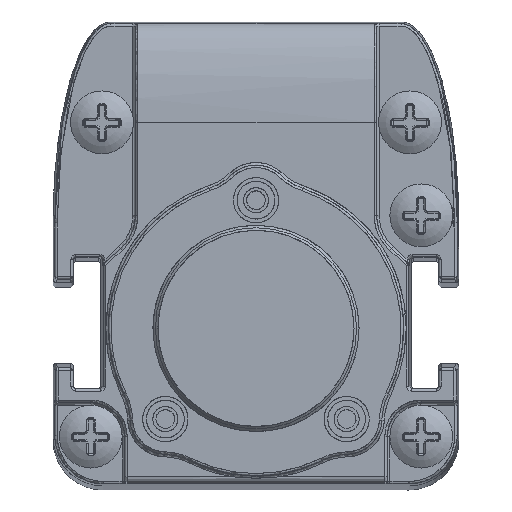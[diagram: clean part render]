
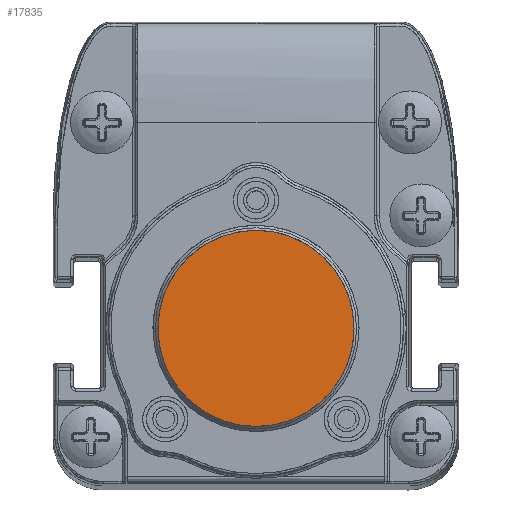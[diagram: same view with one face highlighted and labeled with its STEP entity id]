
A CAD part, top view. The second image highlights one B-rep face of the part: STEP entity #17835.
In plain terms, the highlighted planar face has unit normal (0, 0, 1).
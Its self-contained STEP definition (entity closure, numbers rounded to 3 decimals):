
#15106=B_SPLINE_CURVE_WITH_KNOTS('',3,(#62611,#62612,#62613,#62614,#62615,
#62616,#62617,#62618,#62619,#62620,#62621,#62622,#62623,#62624,#62625,#62626,
#62627,#62628,#62629,#62630,#62631,#62632,#62633,#62634,#62635,#62636,#62637,
#62638,#62639,#62640,#62641,#62642,#62643,#62644,#62645,#62646,#62647,#62648,
#62649,#62650,#62651,#62652,#62653,#62654,#62655,#62656,#62657,#62658,#62659,
#62660,#62661,#62662,#62663,#62664,#62665,#62666,#62667,#62668,#62669,#62670,
#62671,#62672,#62673,#62674,#62675,#62676,#62677,#62678,#62679,#62680,#62681,
#62682,#62683,#62684,#62685,#62686,#62687,#62688,#62689,#62690,#62691,#62692,
#62693,#62694,#62695,#62696,#62697,#62698,#62699,#62700,#62701,#62702,#62703,
#62704,#62705,#62706,#62707,#62708,#62709,#62710,#62711,#62712,#62713),
 .UNSPECIFIED.,.T.,.F.,(1,3,3,3,3,3,3,3,3,3,3,3,3,3,3,3,3,3,3,3,3,3,3,3,
3,3,3,3,3,3,3,3,3,3,3,3,1),(-0.029,0.,0.029,0.059,
0.088,0.118,0.147,0.176,
0.206,0.235,0.265,0.294,
0.324,0.353,0.382,0.412,
0.441,0.471,0.5,0.529,0.559,
0.588,0.618,0.647,0.676,
0.706,0.735,0.765,0.794,
0.824,0.853,0.882,0.912,
0.941,0.971,1.,1.029),.UNSPECIFIED.);
#17835=ADVANCED_FACE('',(#19815),#18733,.T.);
#18733=PLANE('',#42914);
#19815=FACE_OUTER_BOUND('',#21276,.T.);
#21276=EDGE_LOOP('',(#27485));
#27485=ORIENTED_EDGE('',*,*,#36349,.T.);
#31479=VERTEX_POINT('',#62714);
#36349=EDGE_CURVE('',#31479,#31479,#15106,.T.);
#42914=AXIS2_PLACEMENT_3D('',#62715,#46821,#46822);
#46821=DIRECTION('',(0.,0.,1.));
#46822=DIRECTION('',(1.,0.,0.));
#62611=CARTESIAN_POINT('',(7.8,0.,233.34));
#62612=CARTESIAN_POINT('',(7.8,0.465,233.34));
#62613=CARTESIAN_POINT('',(7.759,0.925,233.34));
#62614=CARTESIAN_POINT('',(7.679,1.376,233.34));
#62615=CARTESIAN_POINT('',(7.638,1.601,233.34));
#62616=CARTESIAN_POINT('',(7.588,1.825,233.34));
#62617=CARTESIAN_POINT('',(7.527,2.047,233.34));
#62618=CARTESIAN_POINT('',(7.466,2.269,233.34));
#62619=CARTESIAN_POINT('',(7.407,2.458,233.34));
#62620=CARTESIAN_POINT('',(7.315,2.708,233.34));
#62621=CARTESIAN_POINT('',(7.129,3.209,233.34));
#62622=CARTESIAN_POINT('',(6.898,3.683,233.34));
#62623=CARTESIAN_POINT('',(6.62,4.128,233.34));
#62624=CARTESIAN_POINT('',(6.343,4.573,233.34));
#62625=CARTESIAN_POINT('',(6.043,4.965,233.34));
#62626=CARTESIAN_POINT('',(5.651,5.376,233.34));
#62627=CARTESIAN_POINT('',(4.868,6.2,233.34));
#62628=CARTESIAN_POINT('',(3.912,6.837,233.34));
#62629=CARTESIAN_POINT('',(2.89,7.245,233.34));
#62630=CARTESIAN_POINT('',(2.378,7.449,233.34));
#62631=CARTESIAN_POINT('',(1.856,7.597,233.34));
#62632=CARTESIAN_POINT('',(1.324,7.689,233.34));
#62633=CARTESIAN_POINT('',(1.058,7.734,233.34));
#62634=CARTESIAN_POINT('',(0.79,7.766,233.34));
#62635=CARTESIAN_POINT('',(0.52,7.784,233.34));
#62636=CARTESIAN_POINT('',(0.249,7.801,233.34));
#62637=CARTESIAN_POINT('',(-0.055,7.804,233.34));
#62638=CARTESIAN_POINT('',(-0.3,7.794,233.34));
#62639=CARTESIAN_POINT('',(-0.79,7.775,233.34));
#62640=CARTESIAN_POINT('',(-1.271,7.712,233.34));
#62641=CARTESIAN_POINT('',(-1.742,7.604,233.34));
#62642=CARTESIAN_POINT('',(-2.213,7.496,233.34));
#62643=CARTESIAN_POINT('',(-2.713,7.327,233.34));
#62644=CARTESIAN_POINT('',(-3.123,7.147,233.34));
#62645=CARTESIAN_POINT('',(-3.534,6.968,233.34));
#62646=CARTESIAN_POINT('',(-3.924,6.757,233.34));
#62647=CARTESIAN_POINT('',(-4.293,6.513,233.34));
#62648=CARTESIAN_POINT('',(-4.477,6.392,233.34));
#62649=CARTESIAN_POINT('',(-4.656,6.262,233.34));
#62650=CARTESIAN_POINT('',(-4.83,6.125,233.34));
#62651=CARTESIAN_POINT('',(-5.004,5.987,233.34));
#62652=CARTESIAN_POINT('',(-5.15,5.864,233.34));
#62653=CARTESIAN_POINT('',(-5.337,5.688,233.34));
#62654=CARTESIAN_POINT('',(-5.712,5.337,233.34));
#62655=CARTESIAN_POINT('',(-6.047,4.956,233.34));
#62656=CARTESIAN_POINT('',(-6.341,4.545,233.34));
#62657=CARTESIAN_POINT('',(-6.635,4.134,233.34));
#62658=CARTESIAN_POINT('',(-6.869,3.738,233.34));
#62659=CARTESIAN_POINT('',(-7.102,3.226,233.34));
#62660=CARTESIAN_POINT('',(-7.567,2.203,233.34));
#62661=CARTESIAN_POINT('',(-7.8,1.124,233.34));
#62662=CARTESIAN_POINT('',(-7.8,0.,233.34));
#62663=CARTESIAN_POINT('',(-7.8,-0.562,233.34));
#62664=CARTESIAN_POINT('',(-7.742,-1.113,233.34));
#62665=CARTESIAN_POINT('',(-7.625,-1.651,233.34));
#62666=CARTESIAN_POINT('',(-7.509,-2.189,233.34));
#62667=CARTESIAN_POINT('',(-7.314,-2.758,233.34));
#62668=CARTESIAN_POINT('',(-7.102,-3.226,233.34));
#62669=CARTESIAN_POINT('',(-6.889,-3.694,233.34));
#62670=CARTESIAN_POINT('',(-6.636,-4.134,233.34));
#62671=CARTESIAN_POINT('',(-6.341,-4.544,233.34));
#62672=CARTESIAN_POINT('',(-6.194,-4.75,233.34));
#62673=CARTESIAN_POINT('',(-6.037,-4.947,233.34));
#62674=CARTESIAN_POINT('',(-5.87,-5.138,233.34));
#62675=CARTESIAN_POINT('',(-5.702,-5.329,233.34));
#62676=CARTESIAN_POINT('',(-5.5,-5.535,233.34));
#62677=CARTESIAN_POINT('',(-5.337,-5.688,233.34));
#62678=CARTESIAN_POINT('',(-5.01,-5.995,233.34));
#62679=CARTESIAN_POINT('',(-4.662,-6.27,233.34));
#62680=CARTESIAN_POINT('',(-4.293,-6.513,233.34));
#62681=CARTESIAN_POINT('',(-3.924,-6.756,233.34));
#62682=CARTESIAN_POINT('',(-3.573,-6.951,233.34));
#62683=CARTESIAN_POINT('',(-3.123,-7.147,233.34));
#62684=CARTESIAN_POINT('',(-2.674,-7.344,233.34));
#62685=CARTESIAN_POINT('',(-2.213,-7.496,233.34));
#62686=CARTESIAN_POINT('',(-1.743,-7.604,233.34));
#62687=CARTESIAN_POINT('',(-1.507,-7.658,233.34));
#62688=CARTESIAN_POINT('',(-1.269,-7.701,233.34));
#62689=CARTESIAN_POINT('',(-1.029,-7.732,233.34));
#62690=CARTESIAN_POINT('',(-0.789,-7.764,233.34));
#62691=CARTESIAN_POINT('',(-0.575,-7.784,233.34));
#62692=CARTESIAN_POINT('',(-0.3,-7.794,233.34));
#62693=CARTESIAN_POINT('',(0.801,-7.837,233.34));
#62694=CARTESIAN_POINT('',(1.834,-7.666,233.34));
#62695=CARTESIAN_POINT('',(2.89,-7.245,233.34));
#62696=CARTESIAN_POINT('',(3.417,-7.035,233.34));
#62697=CARTESIAN_POINT('',(3.912,-6.774,233.34));
#62698=CARTESIAN_POINT('',(4.372,-6.462,233.34));
#62699=CARTESIAN_POINT('',(4.833,-6.15,233.34));
#62700=CARTESIAN_POINT('',(5.283,-5.763,233.34));
#62701=CARTESIAN_POINT('',(5.651,-5.376,233.34));
#62702=CARTESIAN_POINT('',(6.019,-4.989,233.34));
#62703=CARTESIAN_POINT('',(6.342,-4.573,233.34));
#62704=CARTESIAN_POINT('',(6.62,-4.128,233.34));
#62705=CARTESIAN_POINT('',(6.759,-3.906,233.34));
#62706=CARTESIAN_POINT('',(6.886,-3.676,233.34));
#62707=CARTESIAN_POINT('',(7.002,-3.44,233.34));
#62708=CARTESIAN_POINT('',(7.117,-3.203,233.34));
#62709=CARTESIAN_POINT('',(7.234,-2.926,233.34));
#62710=CARTESIAN_POINT('',(7.315,-2.708,233.34));
#62711=CARTESIAN_POINT('',(7.638,-1.835,233.34));
#62712=CARTESIAN_POINT('',(7.8,-0.933,233.34));
#62713=CARTESIAN_POINT('',(7.8,0.,233.34));
#62714=CARTESIAN_POINT('',(7.8,0.,233.34));
#62715=CARTESIAN_POINT('',(-8.9,-8.81,233.34));
